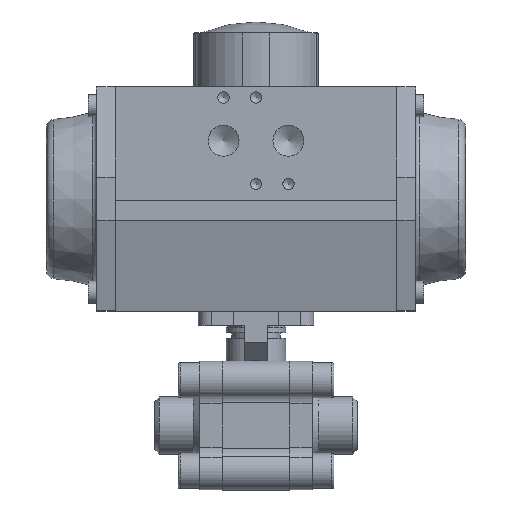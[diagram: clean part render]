
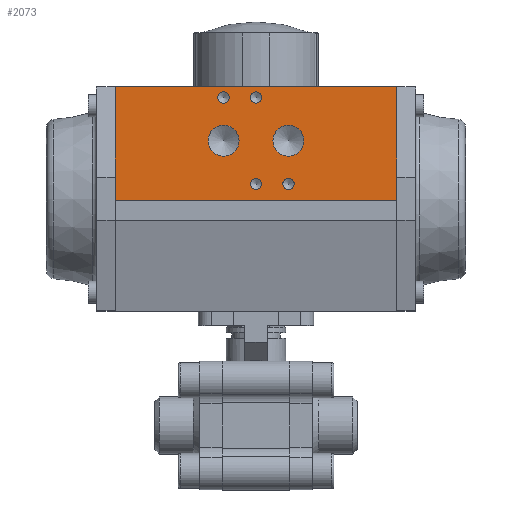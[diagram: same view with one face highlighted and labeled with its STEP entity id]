
A CAD part, top view. The second image highlights one B-rep face of the part: STEP entity #2073.
In plain terms, the highlighted planar face has unit normal (0, 0, 1) as drawn and (1, 0, 0) by its records, which use the part's own axes.
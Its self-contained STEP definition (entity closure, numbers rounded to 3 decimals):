
#228 = EDGE_CURVE ( 'NONE', #9497, #4355, #3012, .T. ) ;
#256 = CIRCLE ( 'NONE', #2713, 2.1 ) ;
#538 = CARTESIAN_POINT ( 'NONE',  ( 42.5, 5.5, -2.1 ) ) ;
#637 = DIRECTION ( 'NONE',  ( 1., 0., 0. ) ) ;
#727 = ORIENTED_EDGE ( 'NONE', *, *, #6237, .F. ) ;
#972 = EDGE_LOOP ( 'NONE', ( #10169 ) ) ;
#982 = FACE_BOUND ( 'NONE', #10787, .T. ) ;
#1248 = FACE_BOUND ( 'NONE', #5525, .T. ) ;
#1634 = ORIENTED_EDGE ( 'NONE', *, *, #3966, .F. ) ;
#1692 = DIRECTION ( 'NONE',  ( 0., 0., -1. ) ) ;
#1748 = FACE_OUTER_BOUND ( 'NONE', #3324, .T. ) ;
#2052 = VECTOR ( 'NONE', #11032, 1000. ) ;
#2073 = ADVANCED_FACE ( 'NONE', ( #1248, #9728, #982, #9965, #9250, #8186, #1748 ), #10708, .T. ) ;
#2138 = CARTESIAN_POINT ( 'NONE',  ( 42.5, -0.5, -52. ) ) ;
#2362 = CARTESIAN_POINT ( 'NONE',  ( 42.5, 21.5, -17.722 ) ) ;
#2454 = CARTESIAN_POINT ( 'NONE',  ( 42.5, 41.5, -52. ) ) ;
#2617 = VECTOR ( 'NONE', #9192, 1000. ) ;
#2647 = CIRCLE ( 'NONE', #9144, 2.1 ) ;
#2713 = AXIS2_PLACEMENT_3D ( 'NONE', #7957, #5328, #7718 ) ;
#2715 = DIRECTION ( 'NONE',  ( 0., 1., 0. ) ) ;
#2798 = CARTESIAN_POINT ( 'NONE',  ( 42.5, 21.5, 6.277 ) ) ;
#2857 = VERTEX_POINT ( 'NONE', #2798 ) ;
#3012 = LINE ( 'NONE', #4049, #5801 ) ;
#3166 = ORIENTED_EDGE ( 'NONE', *, *, #10810, .F. ) ;
#3258 = CIRCLE ( 'NONE', #6613, 2.1 ) ;
#3324 = EDGE_LOOP ( 'NONE', ( #4647, #727, #9654, #4493 ) ) ;
#3460 = DIRECTION ( 'NONE',  ( 0., 1., 0. ) ) ;
#3484 = CARTESIAN_POINT ( 'NONE',  ( 42.5, 5.5, 0. ) ) ;
#3966 = EDGE_CURVE ( 'NONE', #10053, #10053, #256, .T. ) ;
#3968 = CARTESIAN_POINT ( 'NONE',  ( 42.5, 5.5, -14.1 ) ) ;
#4049 = CARTESIAN_POINT ( 'NONE',  ( 42.5, -0.5, -52. ) ) ;
#4205 = DIRECTION ( 'NONE',  ( 0., 0., -1. ) ) ;
#4355 = VERTEX_POINT ( 'NONE', #2454 ) ;
#4493 = ORIENTED_EDGE ( 'NONE', *, *, #228, .T. ) ;
#4584 = DIRECTION ( 'NONE',  ( 1., 0., 0. ) ) ;
#4645 = AXIS2_PLACEMENT_3D ( 'NONE', #6175, #5919, #4205 ) ;
#4647 = ORIENTED_EDGE ( 'NONE', *, *, #6012, .T. ) ;
#4673 = AXIS2_PLACEMENT_3D ( 'NONE', #4703, #4584, #7397 ) ;
#4703 = CARTESIAN_POINT ( 'NONE',  ( 42.5, 21.5, -12. ) ) ;
#4941 = LINE ( 'NONE', #8498, #2052 ) ;
#5037 = ORIENTED_EDGE ( 'NONE', *, *, #6868, .F. ) ;
#5089 = EDGE_CURVE ( 'NONE', #5237, #5237, #3258, .T. ) ;
#5204 = LINE ( 'NONE', #8747, #6926 ) ;
#5237 = VERTEX_POINT ( 'NONE', #9691 ) ;
#5279 = DIRECTION ( 'NONE',  ( 1., 0., 0. ) ) ;
#5326 = DIRECTION ( 'NONE',  ( 1., 0., 0. ) ) ;
#5328 = DIRECTION ( 'NONE',  ( 1., 0., 0. ) ) ;
#5525 = EDGE_LOOP ( 'NONE', ( #7769 ) ) ;
#5638 = CARTESIAN_POINT ( 'NONE',  ( 42.5, 41.5, -52. ) ) ;
#5645 = CARTESIAN_POINT ( 'NONE',  ( 42.5, 41.5, 52. ) ) ;
#5801 = VECTOR ( 'NONE', #9212, 1000. ) ;
#5819 = AXIS2_PLACEMENT_3D ( 'NONE', #2138, #5326, #2715 ) ;
#5919 = DIRECTION ( 'NONE',  ( 1., 0., 0. ) ) ;
#5973 = VERTEX_POINT ( 'NONE', #538 ) ;
#6012 = EDGE_CURVE ( 'NONE', #4355, #9806, #10911, .T. ) ;
#6144 = CIRCLE ( 'NONE', #4673, 5.722 ) ;
#6175 = CARTESIAN_POINT ( 'NONE',  ( 42.5, 37.5, 12. ) ) ;
#6237 = EDGE_CURVE ( 'NONE', #9685, #9806, #5204, .T. ) ;
#6285 = EDGE_CURVE ( 'NONE', #9497, #9685, #4941, .T. ) ;
#6548 = EDGE_LOOP ( 'NONE', ( #5037 ) ) ;
#6613 = AXIS2_PLACEMENT_3D ( 'NONE', #7905, #637, #1692 ) ;
#6808 = EDGE_CURVE ( 'NONE', #5973, #5973, #2647, .T. ) ;
#6868 = EDGE_CURVE ( 'NONE', #9515, #9515, #6144, .T. ) ;
#6926 = VECTOR ( 'NONE', #3460, 1000. ) ;
#7397 = DIRECTION ( 'NONE',  ( 0., 0., -1. ) ) ;
#7436 = AXIS2_PLACEMENT_3D ( 'NONE', #10606, #5279, #7908 ) ;
#7623 = CIRCLE ( 'NONE', #4645, 2.1 ) ;
#7718 = DIRECTION ( 'NONE',  ( 0., 0., -1. ) ) ;
#7769 = ORIENTED_EDGE ( 'NONE', *, *, #10335, .F. ) ;
#7905 = CARTESIAN_POINT ( 'NONE',  ( 42.5, 37.5, 0. ) ) ;
#7908 = DIRECTION ( 'NONE',  ( 0., 0., -1. ) ) ;
#7957 = CARTESIAN_POINT ( 'NONE',  ( 42.5, 5.5, -12. ) ) ;
#8031 = DIRECTION ( 'NONE',  ( 1., 0., 0. ) ) ;
#8089 = CARTESIAN_POINT ( 'NONE',  ( 42.5, 37.5, 9.9 ) ) ;
#8186 = FACE_BOUND ( 'NONE', #8868, .T. ) ;
#8335 = ORIENTED_EDGE ( 'NONE', *, *, #6808, .F. ) ;
#8498 = CARTESIAN_POINT ( 'NONE',  ( 42.5, -0.5, -52. ) ) ;
#8707 = CIRCLE ( 'NONE', #7436, 5.722 ) ;
#8747 = CARTESIAN_POINT ( 'NONE',  ( 42.5, -0.5, 52. ) ) ;
#8785 = EDGE_LOOP ( 'NONE', ( #1634 ) ) ;
#8868 = EDGE_LOOP ( 'NONE', ( #3166 ) ) ;
#9144 = AXIS2_PLACEMENT_3D ( 'NONE', #3484, #8031, #9510 ) ;
#9192 = DIRECTION ( 'NONE',  ( 0., 0., 1. ) ) ;
#9212 = DIRECTION ( 'NONE',  ( 0., 1., 0. ) ) ;
#9250 = FACE_BOUND ( 'NONE', #6548, .T. ) ;
#9497 = VERTEX_POINT ( 'NONE', #11057 ) ;
#9510 = DIRECTION ( 'NONE',  ( 0., 0., -1. ) ) ;
#9515 = VERTEX_POINT ( 'NONE', #2362 ) ;
#9654 = ORIENTED_EDGE ( 'NONE', *, *, #6285, .F. ) ;
#9685 = VERTEX_POINT ( 'NONE', #10598 ) ;
#9691 = CARTESIAN_POINT ( 'NONE',  ( 42.5, 37.5, -2.1 ) ) ;
#9728 = FACE_BOUND ( 'NONE', #8785, .T. ) ;
#9749 = VERTEX_POINT ( 'NONE', #8089 ) ;
#9806 = VERTEX_POINT ( 'NONE', #5645 ) ;
#9965 = FACE_BOUND ( 'NONE', #972, .T. ) ;
#10053 = VERTEX_POINT ( 'NONE', #3968 ) ;
#10169 = ORIENTED_EDGE ( 'NONE', *, *, #5089, .F. ) ;
#10335 = EDGE_CURVE ( 'NONE', #9749, #9749, #7623, .T. ) ;
#10598 = CARTESIAN_POINT ( 'NONE',  ( 42.5, -0.5, 52. ) ) ;
#10606 = CARTESIAN_POINT ( 'NONE',  ( 42.5, 21.5, 12. ) ) ;
#10708 = PLANE ( 'NONE',  #5819 ) ;
#10787 = EDGE_LOOP ( 'NONE', ( #8335 ) ) ;
#10810 = EDGE_CURVE ( 'NONE', #2857, #2857, #8707, .T. ) ;
#10911 = LINE ( 'NONE', #5638, #2617 ) ;
#11032 = DIRECTION ( 'NONE',  ( 0., 0., 1. ) ) ;
#11057 = CARTESIAN_POINT ( 'NONE',  ( 42.5, -0.5, -52. ) ) ;
